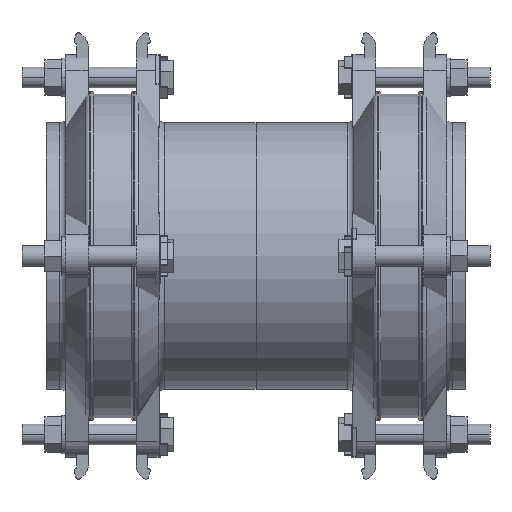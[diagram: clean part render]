
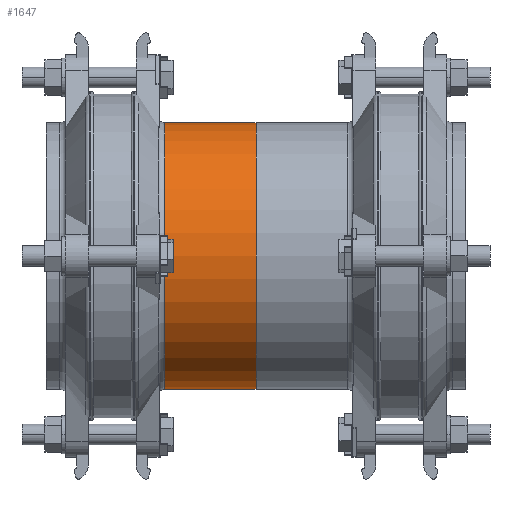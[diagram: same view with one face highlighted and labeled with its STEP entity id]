
A CAD part, front view. The second image highlights one B-rep face of the part: STEP entity #1647.
In plain terms, the highlighted cylindrical face has radius 104.5 mm (diameter 209 mm), a partial arc.
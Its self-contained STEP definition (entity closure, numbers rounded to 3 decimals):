
#1647=ADVANCED_FACE('',(#3424),#3425,.T.);
#3424=FACE_OUTER_BOUND('',#5916,.T.);
#3425=CYLINDRICAL_SURFACE('',#5917,104.5);
#5916=EDGE_LOOP('',(#8349,#8350,#8351,#8352,#8353));
#5917=AXIS2_PLACEMENT_3D('',#8354,#8355,#8356);
#8349=ORIENTED_EDGE('',*,*,#13550,.F.);
#8350=ORIENTED_EDGE('',*,*,#13551,.T.);
#8351=ORIENTED_EDGE('',*,*,#13493,.T.);
#8352=ORIENTED_EDGE('',*,*,#13552,.F.);
#8353=ORIENTED_EDGE('',*,*,#13219,.F.);
#8354=CARTESIAN_POINT('',(-14.311,0.,0.));
#8355=DIRECTION('',(1.0,0.,0.));
#8356=DIRECTION('',(0.,0.,1.0));
#13219=EDGE_CURVE('',#15419,#15420,#15421,.T.);
#13493=EDGE_CURVE('',#15889,#15897,#15899,.T.);
#13550=EDGE_CURVE('',#15994,#15419,#15995,.T.);
#13551=EDGE_CURVE('',#15994,#15889,#15996,.T.);
#13552=EDGE_CURVE('',#15420,#15897,#15997,.T.);
#15419=VERTEX_POINT('',#18540);
#15420=VERTEX_POINT('',#18541);
#15421=CIRCLE('',#18542,104.5);
#15889=VERTEX_POINT('',#19166);
#15897=VERTEX_POINT('',#19174);
#15899=CIRCLE('',#19176,104.5);
#15994=VERTEX_POINT('',#19299);
#15995=LINE('',#19300,#19301);
#15996=CIRCLE('',#19302,104.5);
#15997=LINE('',#19303,#19304);
#18540=CARTESIAN_POINT('',(21.5,0.,104.5));
#18541=CARTESIAN_POINT('',(21.5,0.,-104.5));
#18542=AXIS2_PLACEMENT_3D('',#22515,#22516,#22517);
#19166=CARTESIAN_POINT('',(-50.121,-104.5,0.));
#19174=CARTESIAN_POINT('',(-50.121,0.,-104.5));
#19176=AXIS2_PLACEMENT_3D('',#22857,#22858,#22859);
#19299=CARTESIAN_POINT('',(-50.121,0.,104.5));
#19300=CARTESIAN_POINT('',(-14.311,0.,104.5));
#19301=VECTOR('',#22933,1.0);
#19302=AXIS2_PLACEMENT_3D('',#22934,#22935,#22936);
#19303=CARTESIAN_POINT('',(-14.311,0.,-104.5));
#19304=VECTOR('',#22937,1.0);
#22515=CARTESIAN_POINT('',(21.5,0.,0.));
#22516=DIRECTION('',(1.0,0.,0.));
#22517=DIRECTION('',(0.,0.,1.0));
#22857=CARTESIAN_POINT('',(-50.121,0.,0.0));
#22858=DIRECTION('',(1.0,0.,0.));
#22859=DIRECTION('',(0.,0.,1.0));
#22933=DIRECTION('',(1.0,0.,0.));
#22934=CARTESIAN_POINT('',(-50.121,0.,0.0));
#22935=DIRECTION('',(1.0,0.,0.));
#22936=DIRECTION('',(0.,0.,1.0));
#22937=DIRECTION('',(-1.0,0.,0.));
